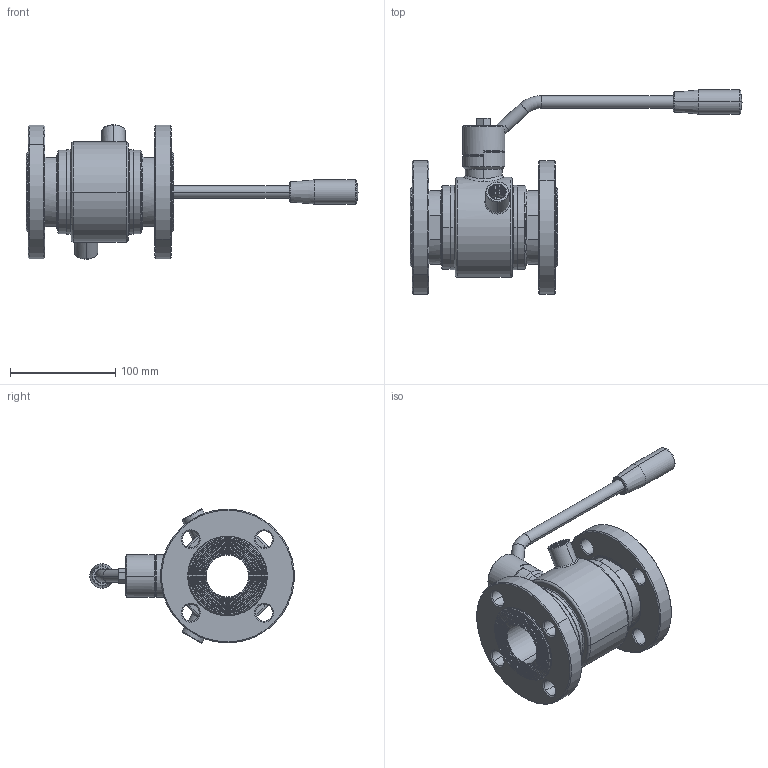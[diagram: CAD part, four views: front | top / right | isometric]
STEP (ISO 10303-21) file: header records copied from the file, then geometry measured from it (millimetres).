
FILE_DESCRIPTION((''),'2;1');
FILE_NAME('130155C63410_SW0001','2026-07-27T10:05:13',('tecnico2'),('CDM Tecnoconsulting'),'CREO PARAMETRIC BY PTC INC, 2024063','CREO PARAMETRIC BY PTC INC, 2024063','');
FILE_SCHEMA(('CONFIG_CONTROL_DESIGN','SHAPE_APPEARANCE_LAYERS_GROUPS'));
Products named in the file (1): 130155C63410_SW0001
Bounding box: 315 x 193.76 x 127.41 mm (x, y, z)
Volume: 875882.8 mm3; surface area: 188674.7 mm2
Topology: 1 solids, 1 shells, 1061 faces, 2831 edges, 1804 vertices
Faces by surface type: plane 405, cylinder 239, cone 141, extrusion 111, bspline 79, torus 72, sphere 14
Entity records: 72195 total; most frequent: CARTESIAN_POINT 35851, ORIENTED_EDGE 5626, DIRECTION 4629, PRESENTATION_STYLE_ASSIGNMENT 3207, STYLED_ITEM 2869, CURVE_STYLE 2868, EDGE_CURVE 2813, VERTEX_POINT 1804
